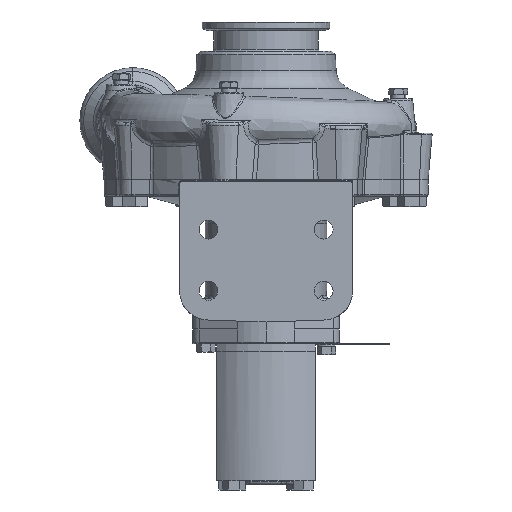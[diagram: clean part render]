
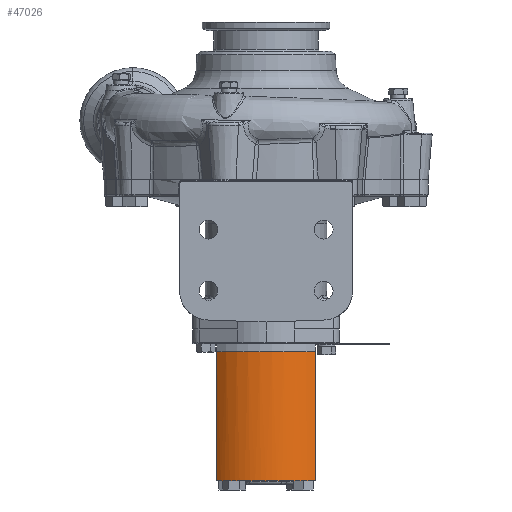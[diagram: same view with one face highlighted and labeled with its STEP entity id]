
A CAD part, front view. The second image highlights one B-rep face of the part: STEP entity #47026.
In plain terms, the highlighted cylindrical face has radius 63.5 mm (diameter 127 mm), a partial arc.
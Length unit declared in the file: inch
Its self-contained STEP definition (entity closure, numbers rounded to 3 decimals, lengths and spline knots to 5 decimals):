
#7089 = CARTESIAN_POINT ( 'NONE',  ( 0., -0.13792, -7.5874 ) ) ;
#7090 = DIRECTION ( 'NONE',  ( 0., 0., -1. ) ) ;
#7091 = DIRECTION ( 'NONE',  ( 0., -1., 0. ) ) ;
#7355 = CARTESIAN_POINT ( 'NONE',  ( 0., -0.13792, -12.062 ) ) ;
#7356 = DIRECTION ( 'NONE',  ( 0., 0., -1. ) ) ;
#7357 = DIRECTION ( 'NONE',  ( 1., 0., 0. ) ) ;
#22272 = EDGE_LOOP ( 'NONE', ( #50500, #50503, #50506, #50509 ) ) ;
#26085 = FACE_OUTER_BOUND ( 'NONE', #22272, .T. ) ;
#26126 = CYLINDRICAL_SURFACE ( 'NONE', #36601, 2.5 ) ;
#35866 = EDGE_CURVE ( 'NONE', #108341, #108323, #64438, .T. ) ;
#36030 = EDGE_CURVE ( 'NONE', #108295, #108294, #64606, .T. ) ;
#36419 = EDGE_CURVE ( 'NONE', #108295, #108341, #65363, .T. ) ;
#36423 = EDGE_CURVE ( 'NONE', #108294, #108323, #65342, .T. ) ;
#36601 = AXIS2_PLACEMENT_3D ( 'NONE', #61591, #61588, #61579 ) ;
#47026 = ADVANCED_FACE ( 'NONE', ( #26085 ), #26126, .T. ) ;
#50500 = ORIENTED_EDGE ( 'NONE', *, *, #36419, .T. ) ;
#50503 = ORIENTED_EDGE ( 'NONE', *, *, #35866, .T. ) ;
#50506 = ORIENTED_EDGE ( 'NONE', *, *, #36423, .F. ) ;
#50509 = ORIENTED_EDGE ( 'NONE', *, *, #36030, .F. ) ;
#60154 = AXIS2_PLACEMENT_3D ( 'NONE', #7089, #7090, #7091 ) ;
#61579 = DIRECTION ( 'NONE',  ( 1., 0., 0. ) ) ;
#61588 = DIRECTION ( 'NONE',  ( 0., 0., 1. ) ) ;
#61591 = CARTESIAN_POINT ( 'NONE',  ( 0., -0.13792, -12.062 ) ) ;
#64438 = CIRCLE ( 'NONE', #60154, 2.5 ) ;
#64606 = CIRCLE ( 'NONE', #74027, 2.5 ) ;
#65342 = LINE ( 'NONE', #69634, #65376 ) ;
#65363 = LINE ( 'NONE', #69638, #65369 ) ;
#65369 = VECTOR ( 'NONE', #69639, 39.37008 ) ;
#65376 = VECTOR ( 'NONE', #69643, 39.37008 ) ;
#69634 = CARTESIAN_POINT ( 'NONE',  ( -1.7125, -1.95928, -12.062 ) ) ;
#69638 = CARTESIAN_POINT ( 'NONE',  ( 1.7125, -1.95928, -12.062 ) ) ;
#69639 = DIRECTION ( 'NONE',  ( 0., 0., 1. ) ) ;
#69643 = DIRECTION ( 'NONE',  ( 0., 0., 1. ) ) ;
#74027 = AXIS2_PLACEMENT_3D ( 'NONE', #7355, #7356, #7357 ) ;
#99683 = CARTESIAN_POINT ( 'NONE',  ( -1.7125, -1.95928, -12.062 ) ) ;
#99684 = CARTESIAN_POINT ( 'NONE',  ( 1.7125, -1.95928, -12.062 ) ) ;
#99712 = CARTESIAN_POINT ( 'NONE',  ( -1.7125, -1.95928, -7.5874 ) ) ;
#99730 = CARTESIAN_POINT ( 'NONE',  ( 1.7125, -1.95928, -7.5874 ) ) ;
#108294 = VERTEX_POINT ( 'NONE', #99683 ) ;
#108295 = VERTEX_POINT ( 'NONE', #99684 ) ;
#108323 = VERTEX_POINT ( 'NONE', #99712 ) ;
#108341 = VERTEX_POINT ( 'NONE', #99730 ) ;
